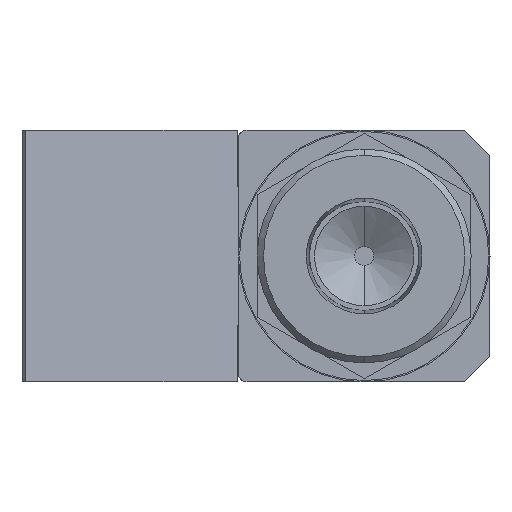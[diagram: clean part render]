
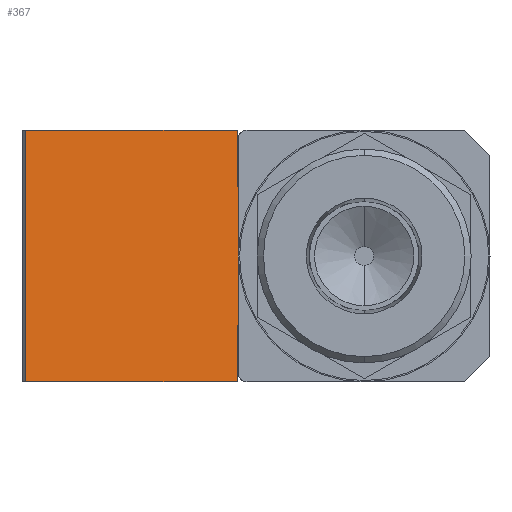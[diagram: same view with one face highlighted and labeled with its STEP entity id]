
A CAD part, front view. The second image highlights one B-rep face of the part: STEP entity #367.
In plain terms, the highlighted planar face has unit normal (0.151, -0.989, 0) as drawn and (1, 0, 0) by its records, which use the part's own axes.
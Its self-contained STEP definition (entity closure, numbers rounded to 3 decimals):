
#42 = VERTEX_POINT ( 'NONE', #5696 ) ;
#87 = VERTEX_POINT ( 'NONE', #5680 ) ;
#367 = ADVANCED_FACE ( 'NONE', ( #6264 ), #3578, .F. ) ;
#511 = EDGE_LOOP ( 'NONE', ( #3481, #3563, #3459, #3560, #3513, #3487, #3530, #3440, #1650, #2411, #2422, #3551 ) ) ;
#727 = CARTESIAN_POINT ( 'NONE',  ( 155.375, 103.99, 5.5 ) ) ;
#732 = CARTESIAN_POINT ( 'NONE',  ( 155.375, 103.99, -5.5 ) ) ;
#733 = DIRECTION ( 'NONE',  ( 0., 1., 0. ) ) ;
#738 = DIRECTION ( 'NONE',  ( 0., 0., 1. ) ) ;
#743 = CARTESIAN_POINT ( 'NONE',  ( 155.375, 103.99, -5.5 ) ) ;
#752 = DIRECTION ( 'NONE',  ( 0., -1., 0. ) ) ;
#758 = CARTESIAN_POINT ( 'NONE',  ( 155.375, 98.908, 10. ) ) ;
#759 = CARTESIAN_POINT ( 'NONE',  ( 155.375, 98.908, 10. ) ) ;
#763 = DIRECTION ( 'NONE',  ( 0., 0., -1. ) ) ;
#764 = DIRECTION ( 'NONE',  ( 0., 0., -1. ) ) ;
#814 = CARTESIAN_POINT ( 'NONE',  ( 155.375, 103.01, 2.05 ) ) ;
#815 = DIRECTION ( 'NONE',  ( 0., 0., 1. ) ) ;
#816 = DIRECTION ( 'NONE',  ( 0., -1., 0. ) ) ;
#818 = CARTESIAN_POINT ( 'NONE',  ( 155.375, 103.09, 2.05 ) ) ;
#856 = CARTESIAN_POINT ( 'NONE',  ( 155.375, 120.99, -10. ) ) ;
#857 = DIRECTION ( 'NONE',  ( 0., 1., 0. ) ) ;
#858 = CARTESIAN_POINT ( 'NONE',  ( 155.375, 120.99, -2.05 ) ) ;
#859 = DIRECTION ( 'NONE',  ( 0., -1., 0. ) ) ;
#860 = CARTESIAN_POINT ( 'NONE',  ( 155.375, 120.99, 10. ) ) ;
#861 = DIRECTION ( 'NONE',  ( 0., 1., 0. ) ) ;
#862 = CARTESIAN_POINT ( 'NONE',  ( 155.375, 103.99, 14.258 ) ) ;
#863 = DIRECTION ( 'NONE',  ( 0., 0., 1. ) ) ;
#866 = CARTESIAN_POINT ( 'NONE',  ( 155.375, 120.99, 10. ) ) ;
#867 = DIRECTION ( 'NONE',  ( 0., 0., -1. ) ) ;
#946 = CARTESIAN_POINT ( 'NONE',  ( 155.375, 120.99, -10. ) ) ;
#954 = CARTESIAN_POINT ( 'NONE',  ( 155.375, 103.99, -5.5 ) ) ;
#989 = CARTESIAN_POINT ( 'NONE',  ( 155.375, 103.09, -2.05 ) ) ;
#995 = CARTESIAN_POINT ( 'NONE',  ( 155.375, 103.99, -10. ) ) ;
#1060 = CARTESIAN_POINT ( 'NONE',  ( 155.375, 98.908, -2.05 ) ) ;
#1232 = CARTESIAN_POINT ( 'NONE',  ( 155.375, 98.908, -5.5 ) ) ;
#1264 = CARTESIAN_POINT ( 'NONE',  ( 155.375, 98.908, 2.05 ) ) ;
#1277 = CARTESIAN_POINT ( 'NONE',  ( 155.375, 103.99, 5.5 ) ) ;
#1295 = CARTESIAN_POINT ( 'NONE',  ( 155.375, 103.99, 10. ) ) ;
#1495 = LINE ( 'NONE', #727, #1500 ) ;
#1499 = LINE ( 'NONE', #732, #1505 ) ;
#1500 = VECTOR ( 'NONE', #733, 1000. ) ;
#1505 = VECTOR ( 'NONE', #738, 1000. ) ;
#1507 = LINE ( 'NONE', #743, #1513 ) ;
#1513 = VECTOR ( 'NONE', #752, 1000. ) ;
#1515 = LINE ( 'NONE', #758, #1517 ) ;
#1517 = VECTOR ( 'NONE', #763, 1000. ) ;
#1519 = LINE ( 'NONE', #759, #1521 ) ;
#1521 = VECTOR ( 'NONE', #764, 1000. ) ;
#1555 = LINE ( 'NONE', #814, #1558 ) ;
#1558 = VECTOR ( 'NONE', #816, 1000. ) ;
#1563 = LINE ( 'NONE', #818, #1565 ) ;
#1565 = VECTOR ( 'NONE', #815, 1000. ) ;
#1585 = LINE ( 'NONE', #856, #1588 ) ;
#1587 = LINE ( 'NONE', #858, #1590 ) ;
#1588 = VECTOR ( 'NONE', #857, 1000. ) ;
#1589 = LINE ( 'NONE', #860, #1592 ) ;
#1590 = VECTOR ( 'NONE', #859, 1000. ) ;
#1591 = LINE ( 'NONE', #862, #1594 ) ;
#1592 = VECTOR ( 'NONE', #861, 1000. ) ;
#1594 = VECTOR ( 'NONE', #863, 1000. ) ;
#1595 = LINE ( 'NONE', #866, #1598 ) ;
#1598 = VECTOR ( 'NONE', #867, 1000. ) ;
#1650 = ORIENTED_EDGE ( 'NONE', *, *, #3024, .F. ) ;
#1835 = AXIS2_PLACEMENT_3D ( 'NONE', #3586, #3609, #3570 ) ;
#2133 = VERTEX_POINT ( 'NONE', #946 ) ;
#2141 = VERTEX_POINT ( 'NONE', #954 ) ;
#2176 = VERTEX_POINT ( 'NONE', #989 ) ;
#2182 = VERTEX_POINT ( 'NONE', #995 ) ;
#2269 = VERTEX_POINT ( 'NONE', #1060 ) ;
#2411 = ORIENTED_EDGE ( 'NONE', *, *, #3026, .F. ) ;
#2422 = ORIENTED_EDGE ( 'NONE', *, *, #2961, .F. ) ;
#2459 = VERTEX_POINT ( 'NONE', #1232 ) ;
#2491 = VERTEX_POINT ( 'NONE', #1264 ) ;
#2504 = VERTEX_POINT ( 'NONE', #1277 ) ;
#2522 = VERTEX_POINT ( 'NONE', #1295 ) ;
#2961 = EDGE_CURVE ( 'NONE', #6398, #2504, #1495, .T. ) ;
#2964 = EDGE_CURVE ( 'NONE', #2182, #2141, #1499, .T. ) ;
#2969 = EDGE_CURVE ( 'NONE', #2141, #2459, #1507, .T. ) ;
#2973 = EDGE_CURVE ( 'NONE', #2269, #2459, #1515, .T. ) ;
#2974 = EDGE_CURVE ( 'NONE', #6398, #2491, #1519, .T. ) ;
#3000 = EDGE_CURVE ( 'NONE', #42, #2491, #1555, .T. ) ;
#3004 = EDGE_CURVE ( 'NONE', #2176, #42, #1563, .T. ) ;
#3021 = EDGE_CURVE ( 'NONE', #2182, #2133, #1585, .T. ) ;
#3022 = EDGE_CURVE ( 'NONE', #2176, #2269, #1587, .T. ) ;
#3024 = EDGE_CURVE ( 'NONE', #2522, #87, #1589, .T. ) ;
#3026 = EDGE_CURVE ( 'NONE', #2504, #2522, #1591, .T. ) ;
#3029 = EDGE_CURVE ( 'NONE', #87, #2133, #1595, .T. ) ;
#3440 = ORIENTED_EDGE ( 'NONE', *, *, #3029, .F. ) ;
#3459 = ORIENTED_EDGE ( 'NONE', *, *, #3022, .T. ) ;
#3481 = ORIENTED_EDGE ( 'NONE', *, *, #3000, .F. ) ;
#3487 = ORIENTED_EDGE ( 'NONE', *, *, #2964, .F. ) ;
#3513 = ORIENTED_EDGE ( 'NONE', *, *, #2969, .F. ) ;
#3530 = ORIENTED_EDGE ( 'NONE', *, *, #3021, .T. ) ;
#3551 = ORIENTED_EDGE ( 'NONE', *, *, #2974, .T. ) ;
#3560 = ORIENTED_EDGE ( 'NONE', *, *, #2973, .T. ) ;
#3563 = ORIENTED_EDGE ( 'NONE', *, *, #3004, .F. ) ;
#3570 = DIRECTION ( 'NONE',  ( 0., 0., 1. ) ) ;
#3578 = PLANE ( 'NONE',  #1835 ) ;
#3586 = CARTESIAN_POINT ( 'NONE',  ( 155.375, 120.99, 10. ) ) ;
#3609 = DIRECTION ( 'NONE',  ( -1., 0., 0. ) ) ;
#4503 = CARTESIAN_POINT ( 'NONE',  ( 155.375, 98.908, 5.5 ) ) ;
#5680 = CARTESIAN_POINT ( 'NONE',  ( 155.375, 120.99, 10. ) ) ;
#5696 = CARTESIAN_POINT ( 'NONE',  ( 155.375, 103.09, 2.05 ) ) ;
#6264 = FACE_OUTER_BOUND ( 'NONE', #511, .T. ) ;
#6398 = VERTEX_POINT ( 'NONE', #4503 ) ;
